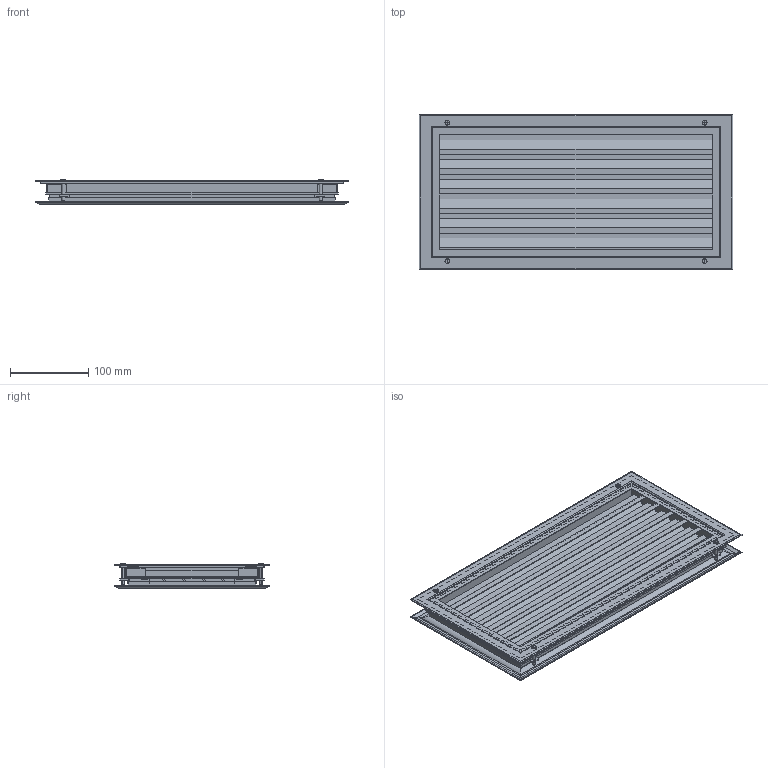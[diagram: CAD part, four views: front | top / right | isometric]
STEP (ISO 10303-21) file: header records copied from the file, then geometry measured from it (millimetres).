
FILE_DESCRIPTION (( 'STEP AP203' ), '1' );
FILE_NAME ('DA-106_A.STEP', '2013-11-07T02:06:55', ( 'SDS' ), ( 'SDS' ), 'SwSTEP 2.0', 'SolidWorks 2002296', '' );
FILE_SCHEMA (( 'CONFIG_CONTROL_DESIGN' ));
Length unit declared in the file: millimetre
Products named in the file (25): DA-106_A1_蹬怮椔; DA-106_A2_蹬怮椔; DA-106_A3_蹬怮椔; DA-106_A4_蹬怮椔; DA-106_A5_蹬怮椔; DA-106_A6_蹬怮椔; DA-106_A7_蹬怮椔; DA-106_A8_蹬怮椔; DA-106_A9_蹬怮椔; DA-106_A24_蹬怮椔; DA-106_A10_蹬怮椔; DA-106_A11_蹬怮椔; DA-106_A12_蹬怮椔; DA-106_A13_蹬怮椔; DA-106_A14_蹬怮椔; DA-106_A15_蹬怮椔; DA-106_A16_蹬怮椔; DA-106_A17_蹬怮椔; DA-106_A18_蹬怮椔; DA-106_A19_蹬怮椔; DA-106_A20_蹬怮椔; DA-106_A22_蹬怮椔; DA-106_A23_蹬怮椔; DA-106_A21_蹬怮椔; DA-106_A
Assembly tree (24 placements, depth 2):
  DA-106_A
    DA-106_A11_蹬怮椔
    DA-106_A22_蹬怮椔
    DA-106_A23_蹬怮椔
    DA-106_A17_蹬怮椔
    DA-106_A13_蹬怮椔
    DA-106_A9_蹬怮椔
    DA-106_A20_蹬怮椔
    DA-106_A21_蹬怮椔
    DA-106_A12_蹬怮椔
    DA-106_A16_蹬怮椔
    DA-106_A1_蹬怮椔
    DA-106_A15_蹬怮椔
    DA-106_A3_蹬怮椔
    DA-106_A19_蹬怮椔
    DA-106_A2_蹬怮椔
    DA-106_A10_蹬怮椔
    DA-106_A7_蹬怮椔
    DA-106_A24_蹬怮椔
    DA-106_A18_蹬怮椔
    DA-106_A4_蹬怮椔
    DA-106_A5_蹬怮椔
    DA-106_A6_蹬怮椔
    DA-106_A8_蹬怮椔
    DA-106_A14_蹬怮椔
Bounding box: 400 x 198.4 x 31.4 mm (x, y, z)
Volume: 264989.7 mm3; surface area: 519895.2 mm2
Topology: 24 solids, 24 shells, 929 faces, 2494 edges, 1602 vertices
Faces by surface type: plane 595, cylinder 246, bspline 48, cone 40
Entity records: 32302 total; most frequent: CARTESIAN_POINT 6687, ORIENTED_EDGE 4940, DIRECTION 4541, EDGE_CURVE 2470, LINE 1717, VECTOR 1717, VERTEX_POINT 1602, AXIS2_PLACEMENT_3D 1412
